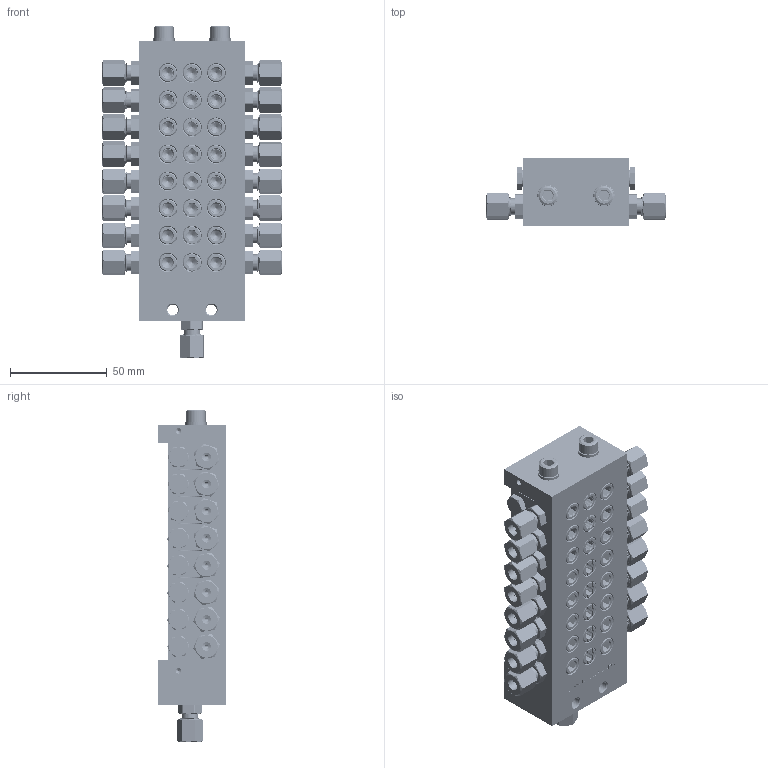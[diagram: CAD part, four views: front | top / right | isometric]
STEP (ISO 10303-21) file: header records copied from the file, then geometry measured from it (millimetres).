
FILE_DESCRIPTION (( 'STEP AP214' ), '1' );
FILE_NAME ('STW_XV_0143_16_0501_16_Auslässe.STEP', '2026-02-04T09:55:21', ( '' ), ( '' ), 'SwSTEP 2.0', 'SolidWorks 2022', '' );
FILE_SCHEMA (( 'AUTOMOTIVE_DESIGN' ));
Length unit declared in the file: millimetre
Products named in the file (14): STW_XV_ENGANG; 991214010601_Mutter; 991214010601_Koerper; STW_XV_Verbindungsstopen; Verschlussstopfen_1_8_2; STW_XV_MITTEL_1; XV_Mittelelement; STW_XV_Kolbenanschlag; STW_XV_0143_16_0501_16_Auslässe; M6X65_DIN_912; 991214010601; U_Scheibe_6; STW_XV_END; 991214010601_Schneidring
Assembly tree (55 placements, depth 3):
  STW_XV_0143_16_0501_16_Auslässe
    STW_XV_ENGANG
    STW_XV_MITTEL_1  x3
    STW_XV_END
    Verschlussstopfen_1_8_2  x6
    STW_XV_Kolbenanschlag  x6
    STW_XV_Verbindungsstopen  x3
    M6X65_DIN_912  x2
    U_Scheibe_6  x2
    991214010601  x17
      991214010601_Koerper
      991214010601_Schneidring
      991214010601_Mutter
    XV_Mittelelement  x5
      STW_XV_MITTEL_1
      STW_XV_Kolbenanschlag
      Verschlussstopfen_1_8_2
      STW_XV_Verbindungsstopen
Bounding box: 92.76 x 35 x 171.68 mm (x, y, z)
Volume: 260496.3 mm3; surface area: 157608.6 mm2
Topology: 105 solids, 105 shells, 3302 faces, 8347 edges, 5360 vertices
Faces by surface type: plane 1477, cylinder 1025, cone 586, bspline 198, torus 16
Full cylindrical faces by diameter (mm): 2 x209, 3 x15, 4.5 x17, 5 x83, 5.5 x2, 5.9 x2, 6 x19, 6.2 x35, 6.4 x2, 6.5 x16, 7 x16, 7.4 x17, 7.67 x17, 8 x33, 8.3 x17, 8.4 x8, 8.6 x40, 9 x34, 9.7 x16, 9.73 x8, 9.8 x119, 10 x18, 11 x2, 15 x1
Entity records: 40731 total; most frequent: CARTESIAN_POINT 20500, ORIENTED_EDGE 2738, DIRECTION 2345, EDGE_CURVE 1369, VERTEX_POINT 974, EDGE_LOOP 901, AXIS2_PLACEMENT_3D 823, FACE_OUTER_BOUND 724
